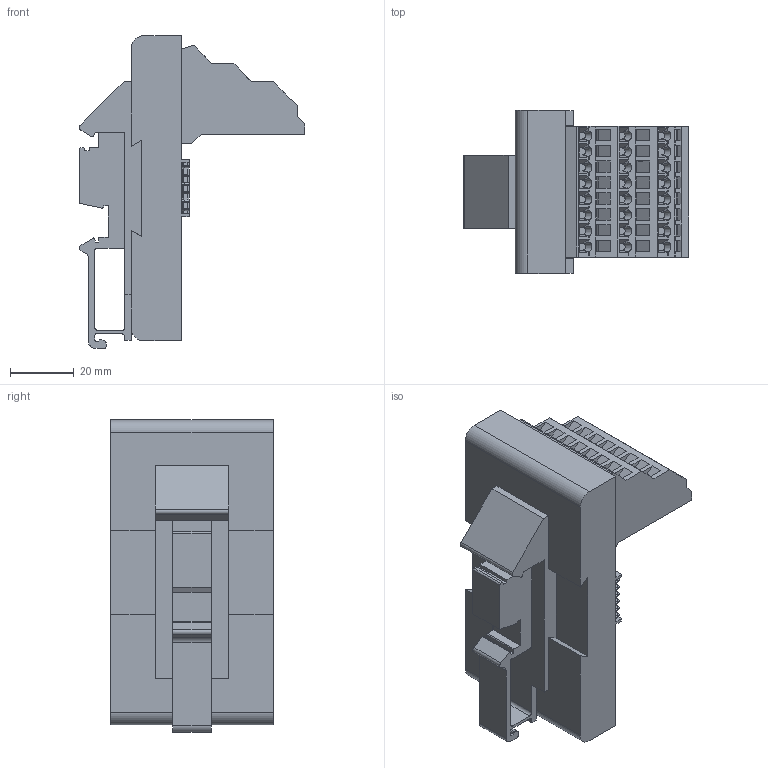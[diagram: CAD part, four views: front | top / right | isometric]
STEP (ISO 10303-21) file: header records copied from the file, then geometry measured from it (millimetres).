
FILE_DESCRIPTION(/* description */ ('Katalogmodell Elobau'),/* implementation_level */ '2;1');
FILE_NAME(/* name */ 'Katalogdaten.stp',/* time_stamp */ '2014-11-03T11:42:24+01:00',/* author */ ('Elobau GmbH & Co. KG'),/* organization */ ('Elobau GmbH & Co. KG'),/* preprocessor_version */ 'ST-DEVELOPER v15',/* originating_system */ 'SIEMENS PLM Software NX 8.5',/* authorisation */ '');
FILE_SCHEMA (('AUTOMOTIVE_DESIGN { 1 0 10303 214 3 1 1 1 }'));
Length unit declared in the file: millimetre
Products named in the file (1): 363.96K30_A
Bounding box: 70.9 x 51.2 x 98.31 mm (x, y, z)
Volume: 96475.4 mm3; surface area: 27323.5 mm2
Topology: 1 solids, 1 shells, 911 faces, 2506 edges, 1596 vertices
Faces by surface type: plane 659, cylinder 132, cone 72, bspline 48
Entity records: 32413 total; most frequent: CARTESIAN_POINT 6684, ORIENTED_EDGE 5012, DIRECTION 4202, EDGE_CURVE 2506, LINE 1854, VECTOR 1854, VERTEX_POINT 1596, AXIS2_PLACEMENT_3D 1174
